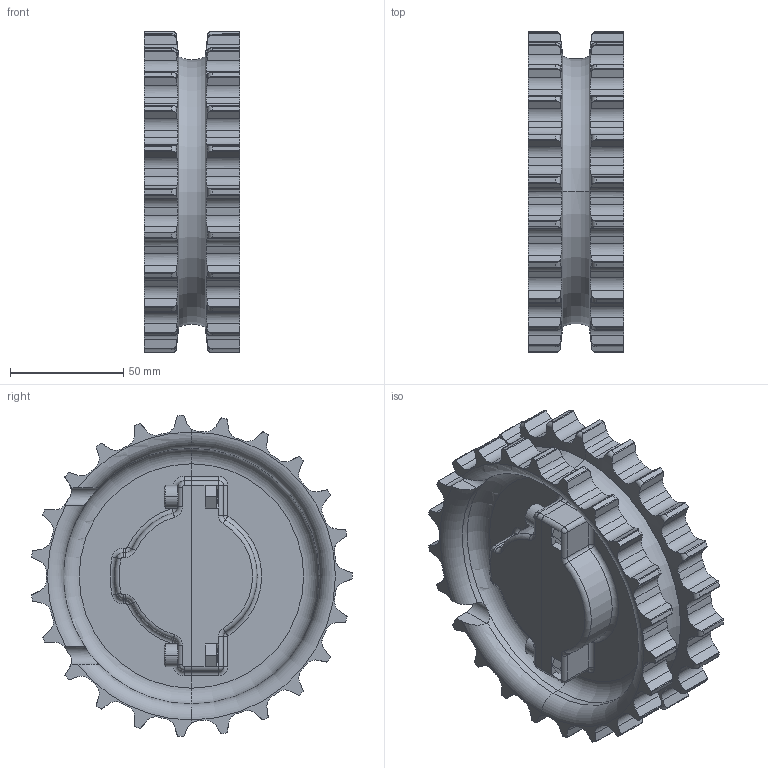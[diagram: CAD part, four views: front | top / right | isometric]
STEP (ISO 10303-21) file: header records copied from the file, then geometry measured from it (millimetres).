
FILE_DESCRIPTION((''),'2;1');
FILE_NAME('303Z23T_ASM','2012-07-02T',('mth'),(''),'PRO/ENGINEER BY PARAMETRIC TECHNOLOGY CORPORATION, 2012130','PRO/ENGINEER BY PARAMETRIC TECHNOLOGY CORPORATION, 2012130','');
FILE_SCHEMA(('AUTOMOTIVE_DESIGN { 1 0 10303 214 1 1 1 1 }'));
Products named in the file (5): 303Z23T; 303Z23T1; M6_934; MC6X18; 303Z23T_ASM
Assembly tree (10 placements, depth 2):
  303Z23T_ASM
    303Z23T
    303Z23T1
    M6_934  x4
    MC6X18  x4
Bounding box: 42.3 x 141.49 x 141.8 mm (x, y, z)
Volume: 315738.7 mm3; surface area: 84954.1 mm2
Topology: 10 solids, 10 shells, 1516 faces, 4223 edges, 2766 vertices
Faces by surface type: plane 936, cylinder 404, torus 100, cone 36, bspline 32, sphere 8
Entity records: 64389 total; most frequent: CARTESIAN_POINT 14237, ORIENTED_EDGE 7954, DIRECTION 7113, PRESENTATION_STYLE_ASSIGNMENT 3981, STYLED_ITEM 3981, CURVE_STYLE 3977, EDGE_CURVE 3977, VECTOR 2791
